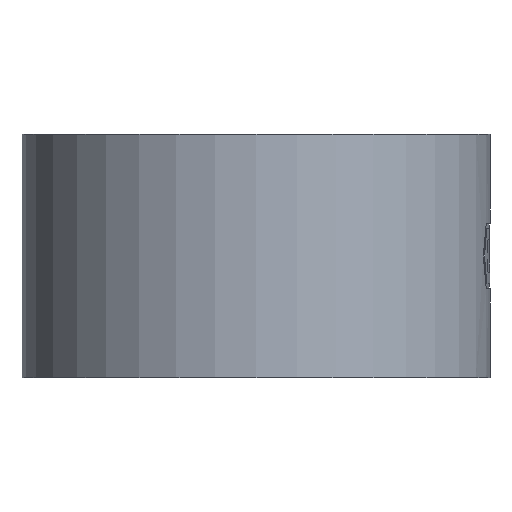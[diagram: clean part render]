
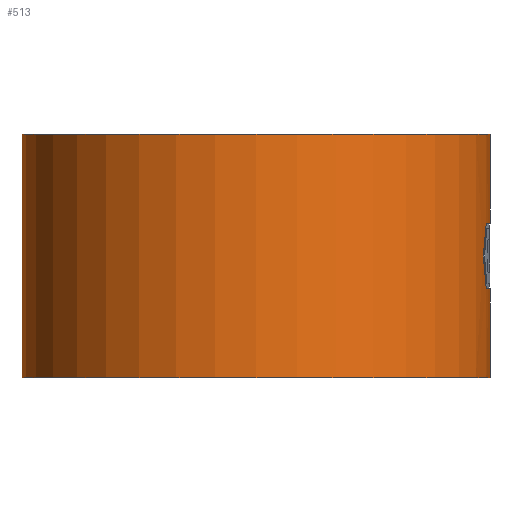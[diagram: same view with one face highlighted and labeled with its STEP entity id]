
A CAD part, front view. The second image highlights one B-rep face of the part: STEP entity #513.
In plain terms, the highlighted cylindrical face has radius 8.65 mm (diameter 17.3 mm), a partial arc.
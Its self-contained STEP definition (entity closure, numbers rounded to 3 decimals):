
#3 = DIRECTION ( 'NONE',  ( 1., 0., 0. ) ) ;
#4 = DIRECTION ( 'NONE',  ( 0., 0., 1. ) ) ;
#5 = CARTESIAN_POINT ( 'NONE',  ( 0., 0., 9. ) ) ;
#6 = AXIS2_PLACEMENT_3D ( 'NONE', #5, #4, #3 ) ;
#7 = CIRCLE ( 'NONE', #6, 8.65 ) ;
#314 = VERTEX_POINT ( 'NONE', #821 ) ;
#315 = VERTEX_POINT ( 'NONE', #820 ) ;
#317 = EDGE_CURVE ( 'NONE', #314, #318, #916, .T. ) ;
#318 = VERTEX_POINT ( 'NONE', #915 ) ;
#325 = VERTEX_POINT ( 'NONE', #925 ) ;
#381 = EDGE_CURVE ( 'NONE', #315, #314, #7, .T. ) ;
#382 = ORIENTED_EDGE ( 'NONE', *, *, #968, .T. ) ;
#383 = ORIENTED_EDGE ( 'NONE', *, *, #384, .T. ) ;
#384 = EDGE_CURVE ( 'NONE', #969, #974, #1040, .T. ) ;
#441 = ORIENTED_EDGE ( 'NONE', *, *, #442, .T. ) ;
#442 = EDGE_CURVE ( 'NONE', #447, #443, #1109, .T. ) ;
#443 = VERTEX_POINT ( 'NONE', #1108 ) ;
#444 = ORIENTED_EDGE ( 'NONE', *, *, #973, .F. ) ;
#445 = ORIENTED_EDGE ( 'NONE', *, *, #446, .F. ) ;
#446 = EDGE_CURVE ( 'NONE', #447, #325, #1076, .T. ) ;
#447 = VERTEX_POINT ( 'NONE', #1077 ) ;
#499 = ORIENTED_EDGE ( 'NONE', *, *, #317, .F. ) ;
#500 = ORIENTED_EDGE ( 'NONE', *, *, #381, .F. ) ;
#513 = ADVANCED_FACE ( 'NONE', ( #1222 ), #1235, .T. ) ;
#514 = EDGE_LOOP ( 'NONE', ( #499, #500, #382, #383, #444, #445, #441, #544, #539 ) ) ;
#537 = EDGE_CURVE ( 'NONE', #538, #443, #1054, .T. ) ;
#538 = VERTEX_POINT ( 'NONE', #1247 ) ;
#539 = ORIENTED_EDGE ( 'NONE', *, *, #540, .F. ) ;
#540 = EDGE_CURVE ( 'NONE', #318, #538, #1276, .T. ) ;
#544 = ORIENTED_EDGE ( 'NONE', *, *, #537, .F. ) ;
#820 = CARTESIAN_POINT ( 'NONE',  ( -8.65, 0., 9. ) ) ;
#821 = CARTESIAN_POINT ( 'NONE',  ( 8.65, 0., 9. ) ) ;
#915 = CARTESIAN_POINT ( 'NONE',  ( 8.65, 0., 5.715 ) ) ;
#916 = LINE ( 'NONE', #919, #918 ) ;
#917 = DIRECTION ( 'NONE',  ( 0., 0., -1. ) ) ;
#918 = VECTOR ( 'NONE', #917, 1000. ) ;
#919 = CARTESIAN_POINT ( 'NONE',  ( 8.65, 0., 9. ) ) ;
#925 = CARTESIAN_POINT ( 'NONE',  ( 8.65, 0., 3.285 ) ) ;
#968 = EDGE_CURVE ( 'NONE', #315, #969, #1336, .T. ) ;
#969 = VERTEX_POINT ( 'NONE', #1357 ) ;
#973 = EDGE_CURVE ( 'NONE', #325, #974, #1369, .T. ) ;
#974 = VERTEX_POINT ( 'NONE', #1388 ) ;
#1037 = DIRECTION ( 'NONE',  ( 1., 0., 0. ) ) ;
#1038 = DIRECTION ( 'NONE',  ( 0., 0., 1. ) ) ;
#1039 = AXIS2_PLACEMENT_3D ( 'NONE', #1042, #1038, #1037 ) ;
#1040 = CIRCLE ( 'NONE', #1039, 8.65 ) ;
#1042 = CARTESIAN_POINT ( 'NONE',  ( 0., 0., 0. ) ) ;
#1054 = B_SPLINE_CURVE_WITH_KNOTS ( 'NONE', 3,
 ( #1175, #1259, #1262, #1260 ),
 .UNSPECIFIED., .F., .F.,
 ( 4, 4 ),
 ( 0., 1. ),
 .UNSPECIFIED. ) ;
#1073 = DIRECTION ( 'NONE',  ( 1., 0., 0. ) ) ;
#1074 = DIRECTION ( 'NONE',  ( 0., 0., 1. ) ) ;
#1075 = AXIS2_PLACEMENT_3D ( 'NONE', #1110, #1074, #1073 ) ;
#1076 = CIRCLE ( 'NONE', #1075, 8.65 ) ;
#1077 = CARTESIAN_POINT ( 'NONE',  ( 8.51, -1.549, 3.285 ) ) ;
#1078 = CARTESIAN_POINT ( 'NONE',  ( 8.403, -2.052, 4.5 ) ) ;
#1105 = CARTESIAN_POINT ( 'NONE',  ( 8.442, -1.893, 4.116 ) ) ;
#1106 = CARTESIAN_POINT ( 'NONE',  ( 8.478, -1.725, 3.711 ) ) ;
#1107 = CARTESIAN_POINT ( 'NONE',  ( 8.51, -1.549, 3.285 ) ) ;
#1108 = CARTESIAN_POINT ( 'NONE',  ( 8.403, -2.052, 4.5 ) ) ;
#1109 = B_SPLINE_CURVE_WITH_KNOTS ( 'NONE', 3,
 ( #1107, #1106, #1105, #1078 ),
 .UNSPECIFIED., .F., .F.,
 ( 4, 4 ),
 ( 0., 1. ),
 .UNSPECIFIED. ) ;
#1110 = CARTESIAN_POINT ( 'NONE',  ( 0., 0., 3.285 ) ) ;
#1175 = CARTESIAN_POINT ( 'NONE',  ( 8.51, -1.549, 5.715 ) ) ;
#1193 = CARTESIAN_POINT ( 'NONE',  ( 0., 0., 9. ) ) ;
#1222 = FACE_OUTER_BOUND ( 'NONE', #514, .T. ) ;
#1232 = DIRECTION ( 'NONE',  ( -1., 0., 0. ) ) ;
#1233 = DIRECTION ( 'NONE',  ( 0., 0., -1. ) ) ;
#1234 = AXIS2_PLACEMENT_3D ( 'NONE', #1193, #1233, #1232 ) ;
#1235 = CYLINDRICAL_SURFACE ( 'NONE', #1234, 8.65 ) ;
#1247 = CARTESIAN_POINT ( 'NONE',  ( 8.51, -1.549, 5.715 ) ) ;
#1249 = DIRECTION ( 'NONE',  ( 0., 0., -1. ) ) ;
#1250 = AXIS2_PLACEMENT_3D ( 'NONE', #1273, #1249, #1254 ) ;
#1254 = DIRECTION ( 'NONE',  ( 0., 1., 0. ) ) ;
#1259 = CARTESIAN_POINT ( 'NONE',  ( 8.479, -1.718, 5.307 ) ) ;
#1260 = CARTESIAN_POINT ( 'NONE',  ( 8.403, -2.052, 4.5 ) ) ;
#1262 = CARTESIAN_POINT ( 'NONE',  ( 8.444, -1.885, 4.902 ) ) ;
#1273 = CARTESIAN_POINT ( 'NONE',  ( 0., 0., 5.715 ) ) ;
#1276 = CIRCLE ( 'NONE', #1250, 8.65 ) ;
#1336 = LINE ( 'NONE', #1360, #1359 ) ;
#1357 = CARTESIAN_POINT ( 'NONE',  ( -8.65, 0., 0. ) ) ;
#1358 = DIRECTION ( 'NONE',  ( 0., 0., -1. ) ) ;
#1359 = VECTOR ( 'NONE', #1358, 1000. ) ;
#1360 = CARTESIAN_POINT ( 'NONE',  ( -8.65, 0., 9. ) ) ;
#1369 = LINE ( 'NONE', #1413, #1393 ) ;
#1386 = DIRECTION ( 'NONE',  ( 0., 0., -1. ) ) ;
#1388 = CARTESIAN_POINT ( 'NONE',  ( 8.65, 0., 0. ) ) ;
#1393 = VECTOR ( 'NONE', #1386, 1000. ) ;
#1413 = CARTESIAN_POINT ( 'NONE',  ( 8.65, 0., 9. ) ) ;
